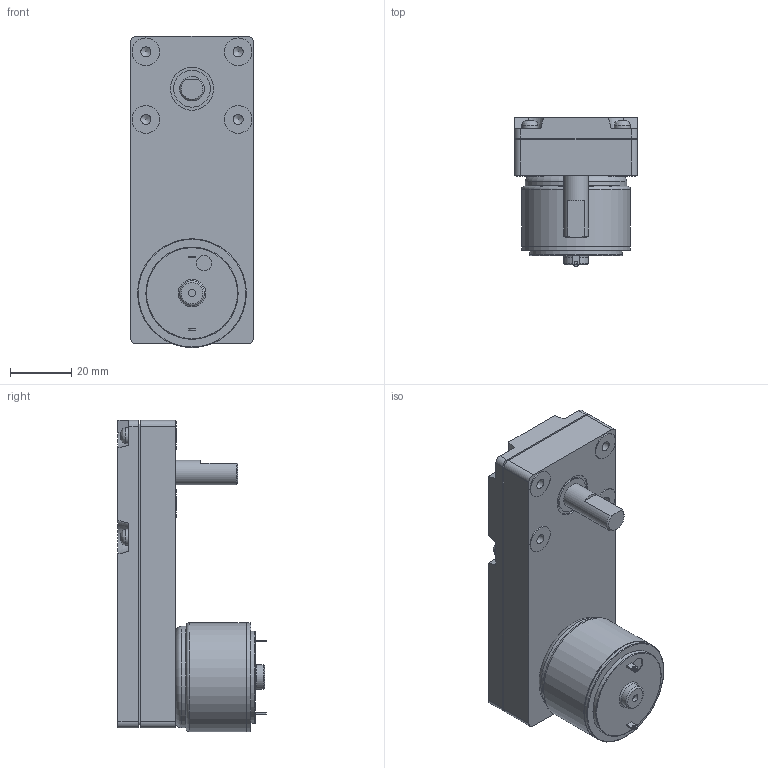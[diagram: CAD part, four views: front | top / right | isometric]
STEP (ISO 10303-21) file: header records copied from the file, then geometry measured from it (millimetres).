
FILE_DESCRIPTION((''),'2;1');
FILE_NAME('C:\Documents and Settings\SSEGAWA\デスクトップ\TP-3526E-IG.STP','2013-07-11T10:45:30',('SSEGAWA'),(''),'Autodesk Inventor 2010','Autodesk Inventor 2010','');
FILE_SCHEMA(('CONFIG_CONTROL_DESIGN'));
Length unit declared in the file: millimetre
Products named in the file (3): tp_3526e_ig_im; ig,im; tp_3526e
Assembly tree (2 placements, depth 2):
  tp_3526e_ig_im
    ig,im
    tp_3526e
Bounding box: 40 x 48.2 x 101.2 mm (x, y, z)
Volume: 98383.5 mm3; surface area: 20344.2 mm2
Topology: 2 solids, 2 shells, 140 faces, 313 edges, 205 vertices
Faces by surface type: plane 60, cylinder 36, bspline 32, cone 7, torus 5
Full cylindrical faces by diameter (mm): 1.1 x1, 2 x1, 2.4 x1, 5 x1, 5.2 x2, 8 x3, 9 x4, 10 x2, 12 x1, 14 x1, 30 x1, 33 x1, 35 x1, 35.4 x2
Entity records: 4115 total; most frequent: CARTESIAN_POINT 1251, DIRECTION 586, ORIENTED_EDGE 476, EDGE_CURVE 238, AXIS2_PLACEMENT_3D 237, EDGE_LOOP 233, VERTEX_POINT 187, FACE_OUTER_BOUND 140
